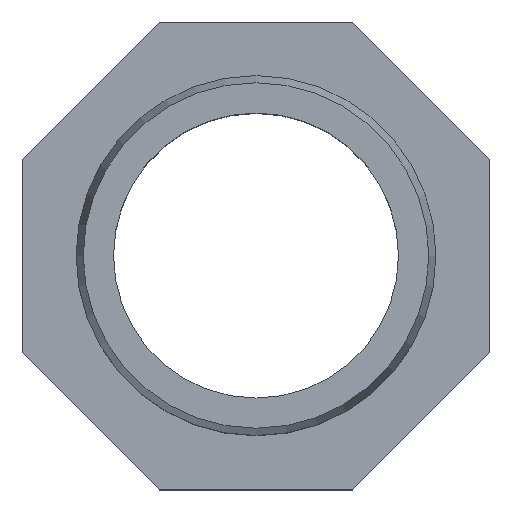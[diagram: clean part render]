
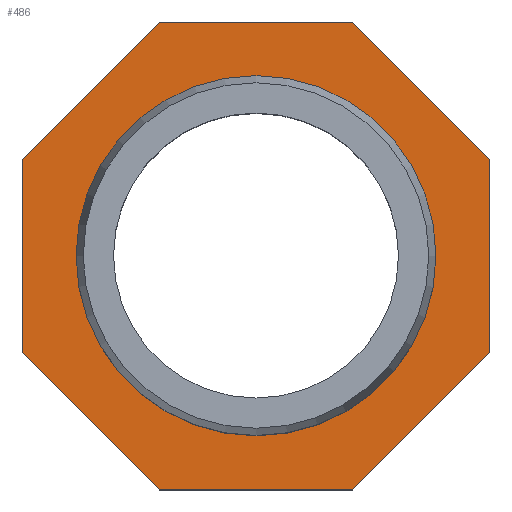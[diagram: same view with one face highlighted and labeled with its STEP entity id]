
A CAD part, top view. The second image highlights one B-rep face of the part: STEP entity #486.
In plain terms, the highlighted planar face has unit normal (0, 0, 1).
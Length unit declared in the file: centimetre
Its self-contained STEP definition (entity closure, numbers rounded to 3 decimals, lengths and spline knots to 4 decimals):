
#26=LINE('',#4460,#53);
#30=LINE('',#4468,#57);
#33=LINE('',#4474,#60);
#36=LINE('',#4480,#63);
#39=LINE('',#4486,#66);
#42=LINE('',#4492,#69);
#45=LINE('',#4498,#72);
#48=LINE('',#4503,#75);
#53=VECTOR('',#576,2.6924);
#57=VECTOR('',#582,2.6924);
#60=VECTOR('',#587,2.6924);
#63=VECTOR('',#592,2.6924);
#66=VECTOR('',#597,2.6924);
#69=VECTOR('',#602,2.6924);
#72=VECTOR('',#607,2.6924);
#75=VECTOR('',#612,2.6924);
#88=FACE_BOUND('',#168,.T.);
#130=FACE_OUTER_BOUND('',#167,.T.);
#167=EDGE_LOOP('',(#387,#388,#389,#390,#391,#392,#393,#394));
#168=EDGE_LOOP('',(#395));
#195=CIRCLE('',#509,2.5);
#221=VERTEX_POINT('',#4452);
#223=VERTEX_POINT('',#4458);
#224=VERTEX_POINT('',#4459);
#227=VERTEX_POINT('',#4467);
#229=VERTEX_POINT('',#4473);
#231=VERTEX_POINT('',#4479);
#233=VERTEX_POINT('',#4485);
#235=VERTEX_POINT('',#4491);
#237=VERTEX_POINT('',#4497);
#269=EDGE_CURVE('',#221,#221,#195,.T.);
#271=EDGE_CURVE('',#223,#224,#26,.T.);
#275=EDGE_CURVE('',#227,#223,#30,.T.);
#278=EDGE_CURVE('',#229,#227,#33,.T.);
#281=EDGE_CURVE('',#231,#229,#36,.T.);
#284=EDGE_CURVE('',#233,#231,#39,.T.);
#287=EDGE_CURVE('',#235,#233,#42,.T.);
#290=EDGE_CURVE('',#237,#235,#45,.T.);
#293=EDGE_CURVE('',#224,#237,#48,.T.);
#387=ORIENTED_EDGE('',*,*,#293,.F.);
#388=ORIENTED_EDGE('',*,*,#271,.F.);
#389=ORIENTED_EDGE('',*,*,#275,.F.);
#390=ORIENTED_EDGE('',*,*,#278,.F.);
#391=ORIENTED_EDGE('',*,*,#281,.F.);
#392=ORIENTED_EDGE('',*,*,#284,.F.);
#393=ORIENTED_EDGE('',*,*,#287,.F.);
#394=ORIENTED_EDGE('',*,*,#290,.F.);
#395=ORIENTED_EDGE('',*,*,#269,.F.);
#429=PLANE('',#524);
#486=ADVANCED_FACE('',(#130,#88),#429,.T.);
#509=AXIS2_PLACEMENT_3D('',#4453,#568,#569);
#524=AXIS2_PLACEMENT_3D('',#4511,#622,#623);
#568=DIRECTION('center_axis',(0.,0.,1.));
#569=DIRECTION('ref_axis',(1.,0.,0.));
#576=DIRECTION('',(1.,0.,0.));
#582=DIRECTION('',(0.707,0.707,0.));
#587=DIRECTION('',(0.,1.,0.));
#592=DIRECTION('',(-0.707,0.707,0.));
#597=DIRECTION('',(-1.,0.,0.));
#602=DIRECTION('',(-0.707,-0.707,0.));
#607=DIRECTION('',(0.,-1.,0.));
#612=DIRECTION('',(0.707,-0.707,0.));
#622=DIRECTION('center_axis',(0.,0.,1.));
#623=DIRECTION('ref_axis',(1.,0.,0.));
#4452=CARTESIAN_POINT('',(2.098,-0.003,1.3233));
#4453=CARTESIAN_POINT('Origin',(-0.402,-0.003,
1.3233));
#4458=CARTESIAN_POINT('',(-1.7482,3.247,1.3233));
#4459=CARTESIAN_POINT('',(0.9442,3.247,1.3233));
#4460=CARTESIAN_POINT('',(-1.7482,3.247,1.3233));
#4467=CARTESIAN_POINT('',(-3.652,1.3432,1.3233));
#4468=CARTESIAN_POINT('',(-3.652,1.3432,1.3233));
#4473=CARTESIAN_POINT('',(-3.652,-1.3492,1.3233));
#4474=CARTESIAN_POINT('',(-3.652,-1.3492,1.3233));
#4479=CARTESIAN_POINT('',(-1.7482,-3.253,1.3233));
#4480=CARTESIAN_POINT('',(-1.7482,-3.253,1.3233));
#4485=CARTESIAN_POINT('',(0.9442,-3.253,1.3233));
#4486=CARTESIAN_POINT('',(0.9442,-3.253,1.3233));
#4491=CARTESIAN_POINT('',(2.848,-1.3492,1.3233));
#4492=CARTESIAN_POINT('',(2.848,-1.3492,1.3233));
#4497=CARTESIAN_POINT('',(2.848,1.3432,1.3233));
#4498=CARTESIAN_POINT('',(2.848,1.3432,1.3233));
#4503=CARTESIAN_POINT('',(0.9442,3.247,1.3233));
#4511=CARTESIAN_POINT('Origin',(2.098,-0.003,1.3233));
